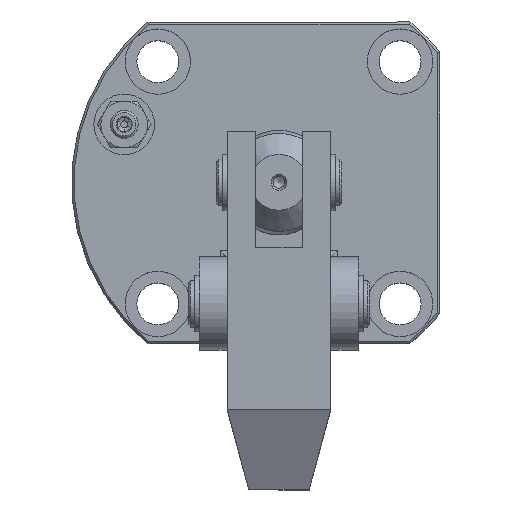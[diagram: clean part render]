
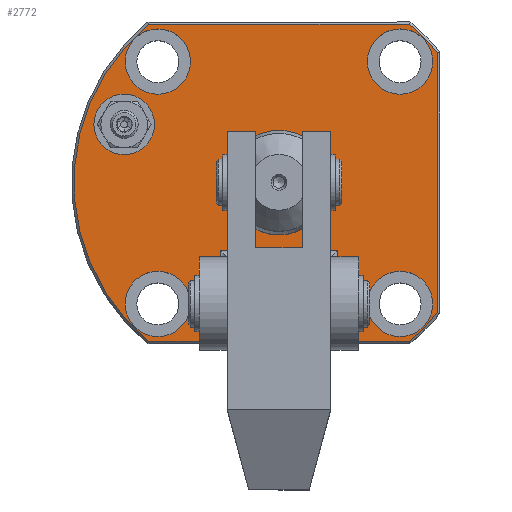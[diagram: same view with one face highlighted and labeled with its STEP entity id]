
A CAD part, top view. The second image highlights one B-rep face of the part: STEP entity #2772.
In plain terms, the highlighted planar face has unit normal (0, 0, 1).
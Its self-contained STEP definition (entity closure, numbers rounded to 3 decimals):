
#168=CIRCLE('',#3079,44.);
#169=CIRCLE('',#3082,44.);
#170=CIRCLE('',#3085,44.);
#171=CIRCLE('',#3088,11.2);
#172=CIRCLE('',#3090,7.);
#173=CIRCLE('',#3092,7.);
#174=CIRCLE('',#3094,7.);
#175=CIRCLE('',#3096,7.);
#176=CIRCLE('',#3098,6.5);
#363=PLANE('',#3097);
#438=LINE('',#4229,#573);
#450=LINE('',#4393,#585);
#451=LINE('',#4407,#586);
#452=LINE('',#4416,#587);
#454=LINE('',#4435,#589);
#455=LINE('',#4437,#590);
#456=LINE('',#4439,#591);
#573=VECTOR('',#3382,1000.);
#585=VECTOR('',#3538,1000.);
#586=VECTOR('',#3545,1000.);
#587=VECTOR('',#3552,1000.);
#589=VECTOR('',#3576,1000.);
#590=VECTOR('',#3577,1000.);
#591=VECTOR('',#3578,1000.);
#848=ORIENTED_EDGE('',*,*,#1426,.T.);
#849=ORIENTED_EDGE('',*,*,#1498,.T.);
#850=ORIENTED_EDGE('',*,*,#1499,.T.);
#851=ORIENTED_EDGE('',*,*,#1500,.T.);
#852=ORIENTED_EDGE('',*,*,#1491,.T.);
#853=ORIENTED_EDGE('',*,*,#1490,.T.);
#854=ORIENTED_EDGE('',*,*,#1488,.T.);
#855=ORIENTED_EDGE('',*,*,#1486,.T.);
#856=ORIENTED_EDGE('',*,*,#1484,.T.);
#857=ORIENTED_EDGE('',*,*,#1481,.T.);
#858=ORIENTED_EDGE('',*,*,#1501,.T.);
#859=ORIENTED_EDGE('',*,*,#1493,.T.);
#860=ORIENTED_EDGE('',*,*,#1496,.F.);
#861=ORIENTED_EDGE('',*,*,#1495,.F.);
#862=ORIENTED_EDGE('',*,*,#1494,.F.);
#863=ORIENTED_EDGE('',*,*,#1497,.F.);
#1426=EDGE_CURVE('',#1781,#1780,#438,.T.);
#1481=EDGE_CURVE('',#1823,#1781,#168,.T.);
#1484=EDGE_CURVE('',#1824,#1823,#450,.T.);
#1486=EDGE_CURVE('',#1825,#1824,#169,.T.);
#1488=EDGE_CURVE('',#1826,#1825,#451,.T.);
#1490=EDGE_CURVE('',#1827,#1826,#170,.T.);
#1491=EDGE_CURVE('',#1828,#1827,#452,.T.);
#1493=EDGE_CURVE('',#1829,#1829,#171,.T.);
#1494=EDGE_CURVE('',#1830,#1830,#172,.T.);
#1495=EDGE_CURVE('',#1831,#1831,#173,.T.);
#1496=EDGE_CURVE('',#1832,#1832,#174,.T.);
#1497=EDGE_CURVE('',#1833,#1833,#175,.T.);
#1498=EDGE_CURVE('',#1780,#1834,#454,.F.);
#1499=EDGE_CURVE('',#1834,#1835,#455,.F.);
#1500=EDGE_CURVE('',#1835,#1828,#456,.F.);
#1501=EDGE_CURVE('',#1836,#1836,#176,.F.);
#1780=VERTEX_POINT('',#4228);
#1781=VERTEX_POINT('',#4230);
#1823=VERTEX_POINT('',#4382);
#1824=VERTEX_POINT('',#4392);
#1825=VERTEX_POINT('',#4399);
#1826=VERTEX_POINT('',#4406);
#1827=VERTEX_POINT('',#4413);
#1828=VERTEX_POINT('',#4417);
#1829=VERTEX_POINT('',#4421);
#1830=VERTEX_POINT('',#4424);
#1831=VERTEX_POINT('',#4427);
#1832=VERTEX_POINT('',#4430);
#1833=VERTEX_POINT('',#4433);
#1834=VERTEX_POINT('',#4436);
#1835=VERTEX_POINT('',#4438);
#1836=VERTEX_POINT('',#4441);
#2122=EDGE_LOOP('',(#848,#849,#850,#851,#852,#853,#854,#855,#856,#857));
#2123=EDGE_LOOP('',(#858));
#2124=EDGE_LOOP('',(#859));
#2125=EDGE_LOOP('',(#860));
#2126=EDGE_LOOP('',(#861));
#2127=EDGE_LOOP('',(#862));
#2128=EDGE_LOOP('',(#863));
#2429=FACE_BOUND('',#2122,.T.);
#2430=FACE_BOUND('',#2123,.T.);
#2431=FACE_BOUND('',#2124,.T.);
#2432=FACE_BOUND('',#2125,.T.);
#2433=FACE_BOUND('',#2126,.T.);
#2434=FACE_BOUND('',#2127,.T.);
#2435=FACE_BOUND('',#2128,.T.);
#2772=ADVANCED_FACE('',(#2429,#2430,#2431,#2432,#2433,#2434,#2435),#363,
 .T.);
#3079=AXIS2_PLACEMENT_3D('',#4381,#3534,#3535);
#3082=AXIS2_PLACEMENT_3D('',#4400,#3541,#3542);
#3085=AXIS2_PLACEMENT_3D('',#4414,#3548,#3549);
#3088=AXIS2_PLACEMENT_3D('',#4420,#3556,#3557);
#3090=AXIS2_PLACEMENT_3D('',#4423,#3560,#3561);
#3092=AXIS2_PLACEMENT_3D('',#4426,#3564,#3565);
#3094=AXIS2_PLACEMENT_3D('',#4429,#3568,#3569);
#3096=AXIS2_PLACEMENT_3D('',#4432,#3572,#3573);
#3097=AXIS2_PLACEMENT_3D('',#4434,#3574,#3575);
#3098=AXIS2_PLACEMENT_3D('',#4440,#3579,#3580);
#3382=DIRECTION('',(1.,0.,0.));
#3534=DIRECTION('',(0.,0.,1.));
#3535=DIRECTION('',(0.,-1.,0.));
#3538=DIRECTION('',(-1.,0.,0.));
#3541=DIRECTION('',(0.,0.,1.));
#3542=DIRECTION('',(0.,-1.,0.));
#3545=DIRECTION('',(0.,1.,0.));
#3548=DIRECTION('',(0.,0.,1.));
#3549=DIRECTION('',(0.,-1.,0.));
#3552=DIRECTION('',(1.,0.,0.));
#3556=DIRECTION('',(0.,0.,-1.));
#3557=DIRECTION('',(0.,-1.,0.));
#3560=DIRECTION('',(0.,0.,1.));
#3561=DIRECTION('',(1.,0.,0.));
#3564=DIRECTION('',(0.,0.,1.));
#3565=DIRECTION('',(1.,0.,0.));
#3568=DIRECTION('',(0.,0.,1.));
#3569=DIRECTION('',(1.,0.,0.));
#3572=DIRECTION('',(0.,0.,1.));
#3573=DIRECTION('',(1.,0.,0.));
#3574=DIRECTION('',(0.,0.,1.));
#3575=DIRECTION('',(0.,-1.,0.));
#3576=DIRECTION('',(0.,-1.,0.));
#3577=DIRECTION('',(-1.,0.,0.));
#3578=DIRECTION('',(0.,1.,0.));
#3579=DIRECTION('',(0.,0.,1.));
#3580=DIRECTION('',(0.,-1.,0.));
#4228=CARTESIAN_POINT('',(-23.35,2.5,17.9));
#4229=CARTESIAN_POINT('',(-10.75,2.5,17.9));
#4230=CARTESIAN_POINT('',(-38.678,2.5,17.9));
#4381=CARTESIAN_POINT('',(-10.75,36.5,17.9));
#4382=CARTESIAN_POINT('',(-38.678,70.5,17.9));
#4392=CARTESIAN_POINT('',(17.178,70.5,17.9));
#4393=CARTESIAN_POINT('',(-10.75,70.5,17.9));
#4399=CARTESIAN_POINT('',(23.25,64.428,17.9));
#4400=CARTESIAN_POINT('',(-10.75,36.5,17.9));
#4406=CARTESIAN_POINT('',(23.25,8.572,17.9));
#4407=CARTESIAN_POINT('',(23.25,36.5,17.9));
#4413=CARTESIAN_POINT('',(17.178,2.5,17.9));
#4414=CARTESIAN_POINT('',(-10.75,36.5,17.9));
#4416=CARTESIAN_POINT('',(-10.75,2.5,17.9));
#4417=CARTESIAN_POINT('',(1.85,2.5,17.9));
#4420=CARTESIAN_POINT('',(-10.75,36.5,17.9));
#4421=CARTESIAN_POINT('',(-10.75,25.3,17.9));
#4423=CARTESIAN_POINT('',(-36.75,10.5,17.9));
#4424=CARTESIAN_POINT('',(-29.75,10.5,17.9));
#4426=CARTESIAN_POINT('',(15.25,10.5,17.9));
#4427=CARTESIAN_POINT('',(22.25,10.5,17.9));
#4429=CARTESIAN_POINT('',(15.25,62.5,17.9));
#4430=CARTESIAN_POINT('',(22.25,62.5,17.9));
#4432=CARTESIAN_POINT('',(-36.75,62.5,17.9));
#4433=CARTESIAN_POINT('',(-29.75,62.5,17.9));
#4434=CARTESIAN_POINT('',(-10.75,36.5,17.9));
#4435=CARTESIAN_POINT('',(-23.35,20.5,17.9));
#4436=CARTESIAN_POINT('',(-23.35,22.,17.9));
#4437=CARTESIAN_POINT('',(-10.75,22.,17.9));
#4438=CARTESIAN_POINT('',(1.85,22.,17.9));
#4439=CARTESIAN_POINT('',(1.85,36.5,17.9));
#4440=CARTESIAN_POINT('',(-43.97,49.02,17.9));
#4441=CARTESIAN_POINT('',(-43.97,42.52,17.9));
